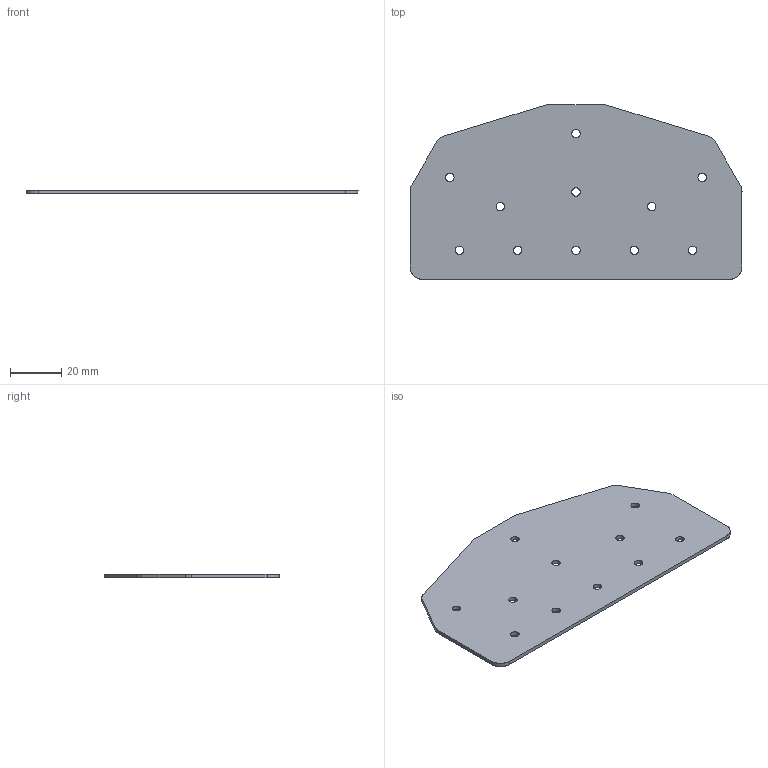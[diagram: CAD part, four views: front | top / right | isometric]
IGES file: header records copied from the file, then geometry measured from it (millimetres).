
Start section: SolidWorks IGES file using analytic representation for surfaces
Global section: file name: C:\Working\Gusset Convert\DRP-002-0014-03.igs; native system: SolidWorks 2010; preprocessor: SolidWorks 2010; author: mbush2; date: 100624.090537; units: inch
Bounding box: 129.49 x 68.2 x 1.52 mm (x, y, z)
Surface area: 16045.3 mm2 (no closed solid volume)
Topology: 0 solids, 0 shells, 40 faces, 944 edges, 944 vertices
Faces by surface type: revolution 30, bspline 10
